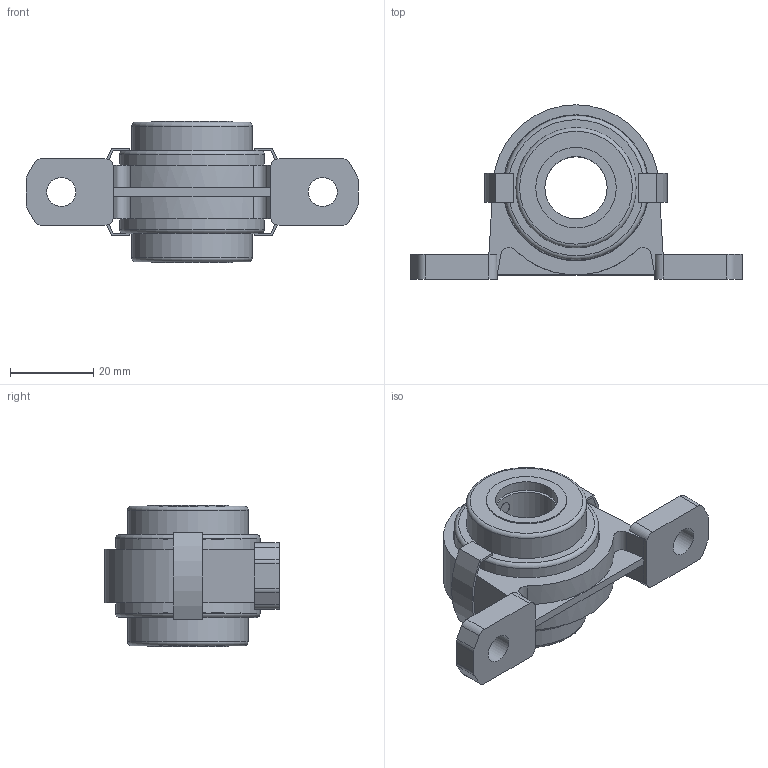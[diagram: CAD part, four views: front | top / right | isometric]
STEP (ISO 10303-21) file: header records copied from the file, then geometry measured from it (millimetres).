
FILE_DESCRIPTION((''),'2;1');
FILE_NAME('\\Ts-tgl068\j-cad-d-base\00.3DCADデータ作成フォルダ\11.エコシリーズ\MUSP000\MUSP002C.stp','2014-11-12T09:22:10',('btec_1106_2'),(''),'Autodesk Inventor 2012','Autodesk Inventor 2012','');
FILE_SCHEMA(('AUTOMOTIVE_DESIGN { 1 0 10303 214 1 1 1 1 }'));
Length unit declared in the file: millimetre
Products named in the file (5): MUSP000C; SP002; U002; 002CP15; 2CLP
Assembly tree (6 placements, depth 2):
  MUSP000C
    SP002
    U002
    002CP15  x2
    2CLP  x2
Bounding box: 80 x 42 x 34.2 mm (x, y, z)
Volume: 19699.6 mm3; surface area: 19351.2 mm2
Topology: 6 solids, 6 shells, 135 faces, 312 edges, 204 vertices
Faces by surface type: plane 74, cylinder 48, torus 8, cone 3, sphere 2
Full cylindrical faces by diameter (mm): 3.5 x1, 4 x1, 7 x2, 15 x3, 19.4 x4, 20.1 x1, 22 x1, 28.4 x2, 29 x2, 34.2 x2, 34.8 x2, 35.2 x2
Entity records: 3218 total; most frequent: CARTESIAN_POINT 634, DIRECTION 542, ORIENTED_EDGE 444, EDGE_CURVE 222, AXIS2_PLACEMENT_3D 208, VERTEX_POINT 160, EDGE_LOOP 156, VECTOR 126
